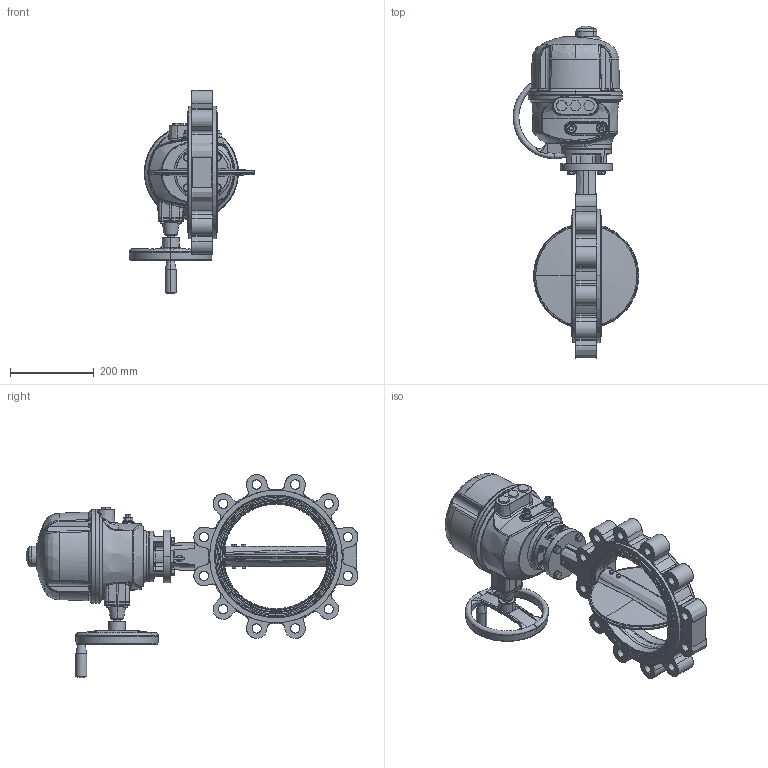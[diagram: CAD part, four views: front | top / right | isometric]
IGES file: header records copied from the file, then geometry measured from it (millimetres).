
Start section: SolidWorks IGES file using analytic representation for surfaces
Global section: file name: H:\BE FABRICATION\BE SERIE\VP\VP SERIE\F072 VPG\plan 3D\VPG-BX4\LUG\DN250\VPG464X-BX4XX0250.igs; native system: SolidWorks 2020; preprocessor: SolidWorks 2020; author: k.gigout; date: 220920.132444; units: millimetre
Bounding box: 299.26 x 790.74 x 483.99 mm (x, y, z)
Surface area: 842466.7 mm2 (no closed solid volume)
Topology: 0 solids, 0 shells, 1074 faces, 22179 edges, 22199 vertices
Faces by surface type: bspline 689, revolution 385
